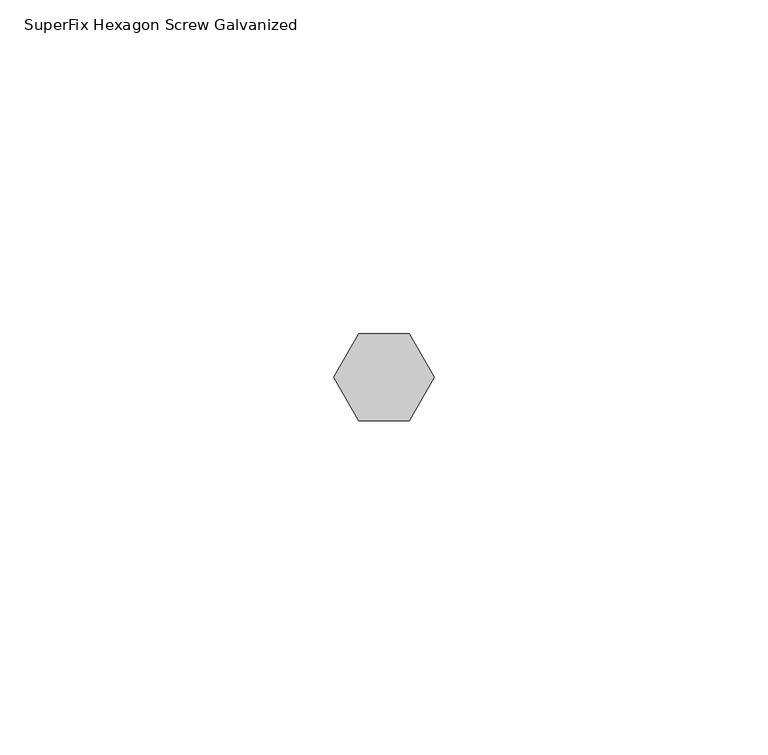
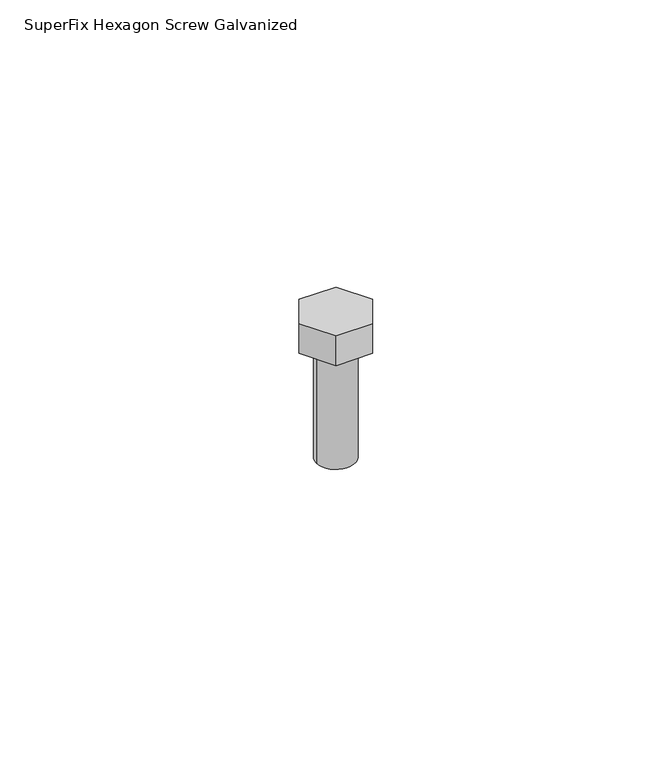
"""IFC4 building model written with IfcOpenShell, lengths in millimetres: valve geometry, SuperFix Hexagon Screw Galvanized : Hexagon Screw Galvanized M8 × 25."""

from ifc_helpers import new_model, si_unit, frame, origin, origin_with_axes, place, context, project, spatial, circle_curve, source, transform, mapped, element, save
from ifc_brep_helpers import plane_surface, cylinder_surface, advanced_brep


def superfix_hexagon_screw_galvanized_8354a985(model_context):
    return source(origin(), model_context, "Body", "AdvancedBrep", [
        advanced_brep(
        [(-7.5055535, 0.0, 6.5), (-3.7527767, -6.5, 6.5), (3.7527767, -6.5, 6.5), (7.5055535, 0.0, 6.5), (3.7527767, 6.5, 6.5), (-3.7527767, 6.5, 6.5), (-7.5055535, 0.0, 0.0), (-3.7527767, 6.5, 0.0), (3.7527767, 6.5, 0.0), (7.5055535, 0.0, 0.0), (3.7527767, -6.5, 0.0), (-3.7527767, -6.5, 0.0), (-4.0, 0.0, 0.0), (4.0, 0.0, 0.0), (-4.0, 0.0, -25.0), (4.0, 0.0, -25.0)],
        [
            (0, 1),
            (1, 2),
            (2, 3),
            (3, 4),
            (4, 5),
            (5, 0),
            (6, 7),
            (7, 8),
            (8, 9),
            (9, 10),
            (10, 11),
            (11, 6),
            (12, 13, circle_curve(origin_with_axes(), 4.0)),
            (13, 12, circle_curve(origin_with_axes(), 4.0)),
            (5, 7),
            (6, 0),
            (4, 8),
            (3, 9),
            (2, 10),
            (1, 11),
            (14, 15, circle_curve(frame((0.0, 0.0, -25.0), z_axis=(0.0, 0.0, -1.0), x_axis=(1.0, 0.0, 0.0)), 4.0)),
            (15, 14, circle_curve(frame((0.0, 0.0, -25.0), z_axis=(0.0, 0.0, -1.0), x_axis=(1.0, 0.0, 0.0)), 4.0)),
            (14, 12),
            (13, 15),
        ],
        [
            plane_surface(frame((-7.5055535, 0.0, 6.5), z_axis=(0.0, 0.0, 1.0), x_axis=(0.49999999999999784, 0.8660254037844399, 0.0))),
            plane_surface(frame((-7.5055535, 0.0, 0.0), z_axis=(0.0, 0.0, -1.0), x_axis=(-0.49999999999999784, -0.8660254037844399, 0.0))),
            plane_surface(frame((-7.5055535, 0.0, 6.5), z_axis=(-0.8660254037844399, 0.49999999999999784, 0.0), x_axis=(0.0, 0.0, -1.0))),
            plane_surface(frame((-3.7527767, 6.5, 6.5), z_axis=(0.0, 1.0, 0.0), x_axis=(0.0, 0.0, -1.0))),
            plane_surface(frame((3.7527767, 6.5, 6.5), z_axis=(0.8660254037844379, 0.5000000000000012, 0.0), x_axis=(0.0, 0.0, -1.0))),
            plane_surface(frame((7.5055535, 0.0, 6.5), z_axis=(0.8660254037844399, -0.4999999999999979, 0.0), x_axis=(0.0, 0.0, -1.0))),
            plane_surface(frame((3.7527767, -6.5, 6.5), z_axis=(0.0, -1.0, 0.0), x_axis=(0.0, 0.0, -1.0))),
            plane_surface(frame((-3.7527767, -6.5, 6.5), z_axis=(-0.866025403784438, -0.5000000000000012, 0.0), x_axis=(0.0, 0.0, -1.0))),
            plane_surface(frame((4.0, 0.0, -25.0), z_axis=(0.0, 0.0, -1.0), x_axis=(0.0, 1.0, 0.0))),
            cylinder_surface(frame((0.0, 0.0, -25.0), z_axis=(0.0, 0.0, 1.0), x_axis=(1.0, 0.0, 0.0)), 4.0),
        ],
        [
            (0, [[1, 2, 3, 4, 5, 6]]),
            (1, [[7, 8, 9, 10, 11, 12], [13, 14]]),
            (2, [[15, -7, 16, -6]]),
            (3, [[17, -8, -15, -5]]),
            (4, [[18, -9, -17, -4]]),
            (5, [[19, -10, -18, -3]]),
            (6, [[20, -11, -19, -2]]),
            (7, [[-16, -12, -20, -1]]),
            (8, [[21, 22]]),
            (9, [[23, -14, 24, -21]]),
            (9, [[-24, -13, -23, -22]]),
        ],
    ),
    ])


if __name__ == "__main__":
    model = new_model("IFC4")
    model_context = context("Model", 3, world=origin())
    ifc_project = project(units=[si_unit("LENGTHUNIT", "METRE", prefix="MILLI")], contexts=[model_context])
    site = spatial("IfcSite", under=ifc_project)
    building = spatial("IfcBuilding", under=site)
    placement = place(None, origin())
    superfix_hexagon_screw_galvanized_shape = superfix_hexagon_screw_galvanized_8354a985(model_context)
    element("IfcValve", 1, ObjectType="SuperFix Hexagon Screw Galvanized : Hexagon Screw Galvanized M8 × 25", at=placement, inside=building, context=model_context, shape_type="MappedRepresentation", body=[
        mapped(superfix_hexagon_screw_galvanized_shape, transform((0.0, 0.0, 0.0), x_axis=(1.0, 0.0, 0.0), y_axis=(0.0, 1.0, 0.0), z_axis=(0.0, 0.0, 1.0))),
    ])
    save(model, "model.ifc")
